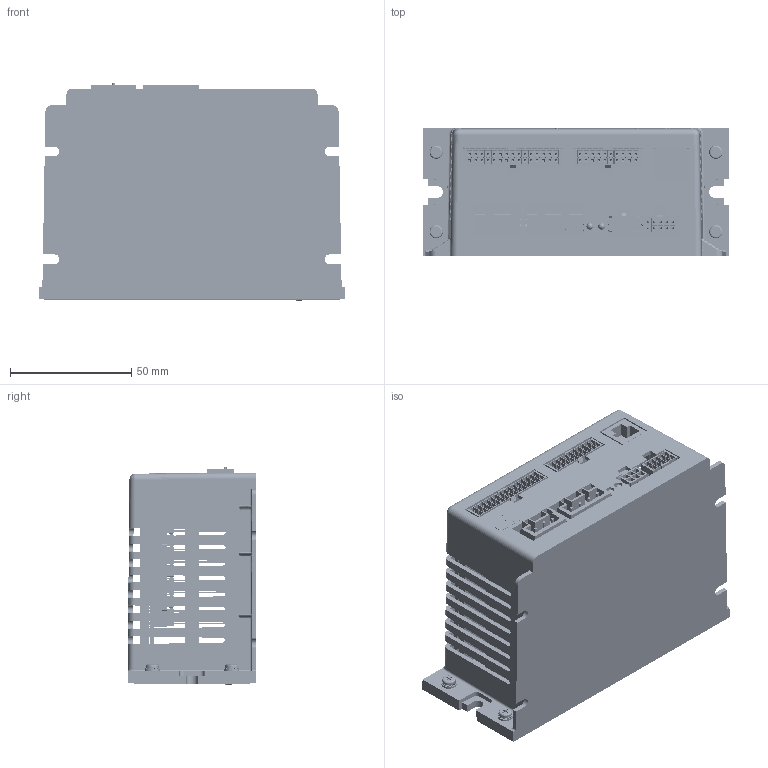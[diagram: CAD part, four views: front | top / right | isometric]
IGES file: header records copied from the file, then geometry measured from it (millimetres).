
Start section: SolidWorks IGES file using analytic representation for surfaces
Global section: file name: K:\ALL Users\Chris Roy\Projects\CMS\Customer Files\XENUS MICRO\Xenus Micro Panel Amp.IGS; native system: SolidWorks 2006 by SolidWorks Corporation; preprocessor: SolidWorks 2006 by SolidWorks Corporation; author: croy; date: 061208.083235; units: inch
Bounding box: 125.98 x 53.08 x 89.93 mm (x, y, z)
Surface area: 153112.1 mm2 (no closed solid volume)
Topology: 0 solids, 0 shells, 22859 faces, 383476 edges, 493974 vertices
Faces by surface type: bspline 17276, revolution 5583
